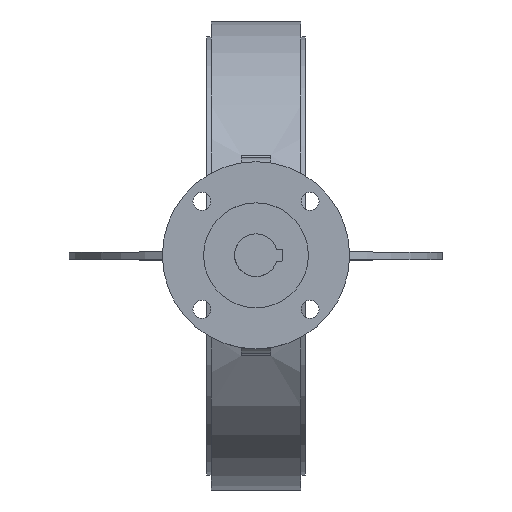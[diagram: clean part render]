
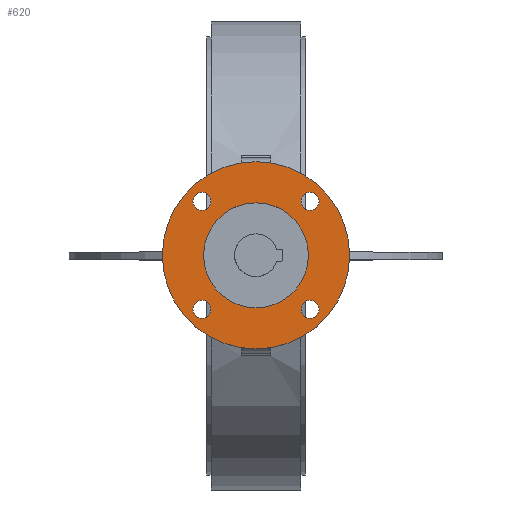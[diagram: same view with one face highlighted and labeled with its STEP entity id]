
A CAD part, top view. The second image highlights one B-rep face of the part: STEP entity #620.
In plain terms, the highlighted planar face has unit normal (0, 0, 1).
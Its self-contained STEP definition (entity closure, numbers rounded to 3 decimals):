
#620=ADVANCED_FACE('',(#1381,#1383,#1385,#1387,#1389,#1391),#1393,.T.);
#1381=FACE_BOUND('',#1382,.T.);
#1382=EDGE_LOOP('',(#1876));
#1383=FACE_BOUND('',#1384,.T.);
#1384=EDGE_LOOP('',(#1877));
#1385=FACE_BOUND('',#1386,.T.);
#1386=EDGE_LOOP('',(#1878));
#1387=FACE_BOUND('',#1388,.T.);
#1388=EDGE_LOOP('',(#1879));
#1389=FACE_BOUND('',#1390,.T.);
#1390=EDGE_LOOP('',(#1880));
#1391=FACE_BOUND('',#1392,.T.);
#1392=EDGE_LOOP('',(#1881));
#1393=PLANE('',#1394);
#1394=AXIS2_PLACEMENT_3D('',#1395,#1396,#1397);
#1395=CARTESIAN_POINT('',(0.,0.,267.));
#1396=DIRECTION('',(0.,0.,1.));
#1397=DIRECTION('',(0.,1.,0.));
#1876=ORIENTED_EDGE('',*,*,#2122,.F.);
#1877=ORIENTED_EDGE('',*,*,#2123,.T.);
#1878=ORIENTED_EDGE('',*,*,#2124,.T.);
#1879=ORIENTED_EDGE('',*,*,#2125,.T.);
#1880=ORIENTED_EDGE('',*,*,#2141,.T.);
#1881=ORIENTED_EDGE('',*,*,#2126,.T.);
#2122=EDGE_CURVE('',#2425,#2425,#2426,.T.);
#2123=EDGE_CURVE('',#2427,#2427,#2428,.F.);
#2124=EDGE_CURVE('',#2429,#2429,#2430,.F.);
#2125=EDGE_CURVE('',#2431,#2431,#2432,.F.);
#2126=EDGE_CURVE('',#2433,#2433,#2434,.F.);
#2141=EDGE_CURVE('',#2463,#2463,#2464,.T.);
#2425=VERTEX_POINT('',#4299);
#2426=CIRCLE('',#4300,62.5);
#2427=VERTEX_POINT('',#4304);
#2428=CIRCLE('',#4305,6.);
#2429=VERTEX_POINT('',#4309);
#2430=CIRCLE('',#4310,6.);
#2431=VERTEX_POINT('',#4314);
#2432=CIRCLE('',#4315,6.);
#2433=VERTEX_POINT('',#4319);
#2434=CIRCLE('',#4320,6.);
#2463=VERTEX_POINT('',#4387);
#2464=CIRCLE('',#4388,35.);
#4299=CARTESIAN_POINT('',(0.,62.5,267.));
#4300=AXIS2_PLACEMENT_3D('',#4301,#4302,#4303);
#4301=CARTESIAN_POINT('',(0.,0.,267.));
#4302=DIRECTION('',(0.,0.,-1.));
#4303=DIRECTION('',(0.,1.,0.));
#4304=CARTESIAN_POINT('',(-30.062,-36.062,267.));
#4305=AXIS2_PLACEMENT_3D('',#4306,#4307,#4308);
#4306=CARTESIAN_POINT('',(-36.062,-36.062,267.));
#4307=DIRECTION('',(0.,0.,1.));
#4308=DIRECTION('',(1.,0.,0.));
#4309=CARTESIAN_POINT('',(-36.062,30.062,267.));
#4310=AXIS2_PLACEMENT_3D('',#4311,#4312,#4313);
#4311=CARTESIAN_POINT('',(-36.062,36.062,267.));
#4312=DIRECTION('',(0.,0.,1.));
#4313=DIRECTION('',(0.,-1.,0.));
#4314=CARTESIAN_POINT('',(30.062,36.062,267.));
#4315=AXIS2_PLACEMENT_3D('',#4316,#4317,#4318);
#4316=CARTESIAN_POINT('',(36.062,36.062,267.));
#4317=DIRECTION('',(0.,0.,1.));
#4318=DIRECTION('',(-1.,0.,0.));
#4319=CARTESIAN_POINT('',(36.062,-30.062,267.));
#4320=AXIS2_PLACEMENT_3D('',#4321,#4322,#4323);
#4321=CARTESIAN_POINT('',(36.062,-36.062,267.));
#4322=DIRECTION('',(0.,0.,1.));
#4323=DIRECTION('',(0.,1.,0.));
#4387=CARTESIAN_POINT('',(0.,35.,267.));
#4388=AXIS2_PLACEMENT_3D('',#4389,#4390,#4391);
#4389=CARTESIAN_POINT('',(0.,0.,267.));
#4390=DIRECTION('',(0.,0.,-1.));
#4391=DIRECTION('',(0.,1.,0.));
